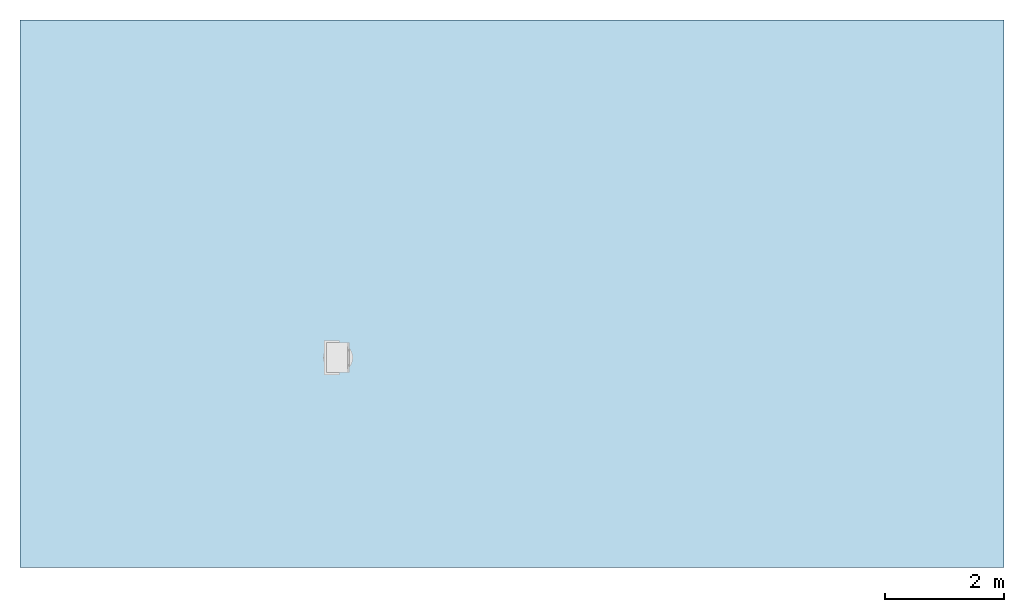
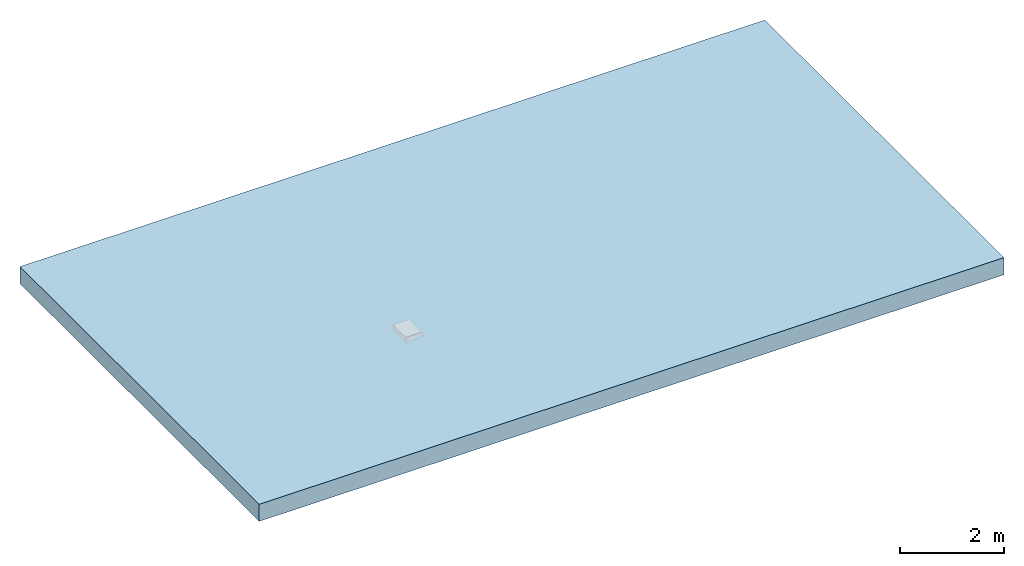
# One storey, incomplete: 1 slab, 2 openings.
"""IFC2X3 building model written with IfcOpenShell, lengths in millimetres."""

from ifc_helpers import new_model, entity, si_unit, converted_unit, direction, frame, frame_2d, origin, place, context, subcontext, project, spatial, rectangle, extrude, faceted_brep, material, layer, layer_set, layer_usage, element, save


model = new_model("IFC2X3")

# Units and contexts
model_context = context("Model", 3, precision=1e-06, world=origin(), true_north=direction((2.0, 6.12303176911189e-17, 1.0)))
context_of_model = context(None, 3, precision=1e-06, world=origin(), true_north=direction((2.0, 6.12303176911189e-17, 1.0)))
body_context = subcontext(model_context, "Body", "Model", "MODEL_VIEW")
ifc_project = project(units=[si_unit("LENGTHUNIT", "METRE", prefix="MILLI"), si_unit("AREAUNIT", "SQUARE_METRE", prefix="MILLI"), si_unit("VOLUMEUNIT", "CUBIC_METRE", prefix="MILLI"), converted_unit("PLANEANGLEUNIT", "DEGREE", entity("IfcRatioMeasure", 0.0174532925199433), si_unit("PLANEANGLEUNIT", "RADIAN"), dimensions=[0, 0, 0, 0, 0, 0, 0]), si_unit("TIMEUNIT", "SECOND")], contexts=[model_context, context_of_model])

# Site, building, storey
site_placement = place(None, origin())
site = spatial("IfcSite", under=ifc_project, at=site_placement, Name="Default", CompositionType="ELEMENT")
building_placement = place(site_placement, origin())
building = spatial("IfcBuilding", under=site, at=building_placement, CompositionType="ELEMENT")
storey_placement = place(building_placement, origin())
storey = spatial("IfcBuildingStorey", under=building, at=storey_placement, Name="Level 1", CompositionType="ELEMENT", Elevation=0.0)

# Slab, openings
ifc_material = material(Name="Plant")
ifc_layer = layer(ifc_material, 400.0)
ifc_layer_set = layer_set([ifc_layer], Name="Floor:Generic Floor - 400mm")
ifc_layer_usage = layer_usage(ifc_layer_set, "AXIS3", "POSITIVE", 0.0)
slab_placement = place(storey_placement, frame((-17967.0691536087, -3738.31688706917, -400.0)))
slab = element("IfcSlab", 1, at=slab_placement, inside=storey, material=ifc_layer_usage, Name="Floor:Generic Floor - 400mm", ObjectType="Floor:Generic Floor - 400mm", PredefinedType="FLOOR", context=body_context, shape_type="SweptSolid", body=[
    extrude(rectangle(XDim=9180.0, YDim=16500.0, at=frame_2d((0.0, 0.0), x_axis=(0.0, -1.0))), frame((8250.0, 4590.0, 400.0), z_axis=(0.0, 0.0, -1.0), x_axis=(-1.0, 0.0, 0.0)), (0.0, 0.0, 1.0), 400.0),
])
opening_1_placement = place(slab_placement, frame((10254.5933965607, 6495.72314067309, -6140.0)))
element("IfcOpeningElement", 2, at=opening_1_placement, cuts=slab, ObjectType="Opening", context=body_context, shape_type="Brep", body=[
    faceted_brep([(56.4828117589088, 541.595272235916, 374.98441010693), (56.4828117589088, 541.595272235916, 420.0), (56.4828117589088, 41.595272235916, 420.0), (56.4828117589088, 41.595272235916, 374.98441010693), (56.4828117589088, 41.595272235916, 365.0), (56.4828117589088, 447.899871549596, 40.0), (56.4828117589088, 541.595272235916, 365.0), (56.4828117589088, 541.595272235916, 25.0), (56.4828117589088, 41.595272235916, 25.0), (56.4828117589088, 135.29067292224, 40.0), (56.4828117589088, 447.899871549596, 25.0), (56.4828117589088, 135.29067292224, 25.0), (11.994691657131, 362.950452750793, 40.0), (30.1245194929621, 175.618094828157, 40.0), (2.75739639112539, 267.518072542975, 40.0), (11.9927041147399, 220.246765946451, 40.0), (30.1267359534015, 407.576682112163, 40.0), (2.75817855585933, 315.680554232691, 40.0), (472.841104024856, 407.572449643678, 40.0), (490.970931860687, 220.240091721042, 40.0), (446.482811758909, 135.290672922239, 40.0), (472.838887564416, 175.613862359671, 40.0), (500.208227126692, 315.67247192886, 40.0), (500.207444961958, 267.509990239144, 40.0), (490.97291940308, 362.943778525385, 40.0), (446.482811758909, 447.899871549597, 40.0), (91.4828117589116, 41.595272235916, 25.0), (91.4828117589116, 99.5952722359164, 25.0), (73.0883353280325, 116.565921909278, 25.0), (91.4828117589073, 483.595272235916, 25.0), (91.4828117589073, 541.595272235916, 25.0), (73.0883353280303, 466.624622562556, 25.0), (429.87728818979, 116.56592190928, 25.0), (446.482811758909, 41.595272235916, 25.0), (446.482811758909, 135.29067292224, 25.0), (411.482811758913, 99.5952722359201, 25.0), (411.48281175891, 41.595272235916, 25.0), (429.877288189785, 466.624622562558, 25.0), (446.482811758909, 447.899871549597, 25.0), (446.482811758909, 541.595272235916, 25.0), (411.482811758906, 541.595272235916, 25.0), (411.482811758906, 483.595272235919, 25.0), (446.482811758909, 41.595272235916, 420.0), (446.482811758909, 541.595272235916, 420.0), (272.482811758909, 41.595272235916, 374.98441010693), (272.482811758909, 41.595272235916, 365.0), (91.4828117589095, 41.595272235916, 0.0), (411.48281175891, 41.595272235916, 0.0), (272.482811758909, 541.595272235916, 374.98441010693), (272.482811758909, 541.595272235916, 365.0), (411.482811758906, 541.595272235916, 0.0), (91.4828117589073, 541.595272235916, 0.0), (495.403052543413, 345.891135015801, 0.0), (477.786025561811, 397.595000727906, 0.0), (25.1795979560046, 397.595000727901, 0.0), (449.360278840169, 444.238610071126, 0.0), (53.6053446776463, 444.238610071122, 0.0), (7.5625709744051, 345.891135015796, 0.0), (1.59527223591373, 291.595272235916, 0.0), (91.4828117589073, 483.595272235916, 0.0), (411.482811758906, 483.59527223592, 0.0), (501.370351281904, 291.595272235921, 0.0), (477.786025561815, 185.595543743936, 0.0), (495.403052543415, 237.299409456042, 0.0), (25.1795979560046, 185.595543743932, 0.0), (91.4828117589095, 99.5952722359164, 0.0), (411.48281175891, 99.5952722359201, 0.0), (53.6053446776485, 138.951934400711, 0.0), (449.360278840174, 138.951934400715, 0.0), (7.5625709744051, 237.299409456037, 0.0), (15.1642952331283, 566.771653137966, 365.0), (14.4828117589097, 561.595272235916, 365.0), (34.4828117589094, 581.595272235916, 365.0), (20.3406761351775, 575.737407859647, 365.0), (17.1623036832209, 571.595272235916, 365.0), (14.4828117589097, 21.5952722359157, 365.0), (15.1642952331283, 16.4188913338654, 365.0), (17.1623036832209, 11.5952722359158, 365.0), (34.4828117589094, 1.5952722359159, 365.0), (24.4828117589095, 4.27476416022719, 365.0), (20.3406761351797, 7.45313661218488, 365.0), (24.4828117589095, 578.915780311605, 365.0), (272.482811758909, 581.595272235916, 365.0), (29.3064308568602, 2.27675571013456, 365.0), (272.482811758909, 1.59527223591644, 365.0), (29.306430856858, 580.913788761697, 365.0), (272.482811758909, 581.595272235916, 374.98441010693), (34.4828117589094, 581.595272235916, 374.98441010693), (14.4828117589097, 561.595272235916, 374.98441010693), (14.4828117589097, 21.5952722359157, 374.98441010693), (272.482811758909, 1.59527223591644, 374.98441010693), (29.3064308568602, 2.27675571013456, 374.98441010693), (24.4828117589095, 4.27476416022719, 374.98441010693), (34.4828117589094, 1.5952722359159, 374.98441010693), (24.4828117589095, 578.915780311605, 374.98441010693), (29.306430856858, 580.913788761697, 374.98441010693), (17.1623036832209, 571.595272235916, 374.98441010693), (20.3406761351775, 575.737407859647, 374.98441010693), (15.1642952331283, 566.771653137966, 374.98441010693), (20.3406761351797, 7.45313661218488, 374.98441010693), (17.1623036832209, 11.5952722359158, 374.98441010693), (15.1642952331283, 16.4188913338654, 374.98441010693)], [[[0, 1, 2]], [[2, 3, 0]], [[4, 5, 6]], [[7, 6, 5]], [[8, 9, 4]], [[5, 4, 9]], [[5, 10, 7]], [[9, 8, 11]], [[12, 13, 14]], [[13, 15, 14]], [[5, 9, 13]], [[13, 12, 16]], [[12, 14, 17]], [[16, 5, 13]], [[18, 19, 20]], [[19, 21, 20]], [[22, 23, 19]], [[19, 18, 24]], [[18, 20, 25]], [[24, 22, 19]], [[8, 26, 27]], [[11, 8, 28]], [[27, 28, 8]], [[7, 29, 30]], [[7, 10, 31]], [[29, 7, 31]], [[32, 33, 34]], [[32, 35, 33]], [[36, 33, 35]], [[37, 38, 39]], [[39, 40, 41]], [[37, 39, 41]], [[42, 2, 1]], [[1, 43, 42]], [[3, 2, 44]], [[45, 44, 42]], [[2, 42, 44]], [[36, 45, 42]], [[45, 26, 4]], [[4, 26, 8]], [[36, 46, 26]], [[46, 36, 47]], [[42, 33, 36]], [[45, 36, 26]], [[43, 20, 42]], [[33, 42, 20]], [[39, 25, 43]], [[20, 43, 25]], [[20, 34, 33]], [[25, 39, 38]], [[48, 49, 43]], [[40, 43, 49]], [[1, 48, 43]], [[1, 0, 48]], [[6, 30, 49]], [[43, 40, 39]], [[30, 50, 40]], [[50, 30, 51]], [[6, 7, 30]], [[49, 30, 40]], [[52, 53, 54]], [[55, 56, 53]], [[57, 58, 52]], [[51, 59, 50]], [[60, 50, 59]], [[59, 55, 60]], [[55, 59, 56]], [[56, 54, 53]], [[54, 57, 52]], [[58, 61, 52]], [[62, 63, 64]], [[65, 47, 66]], [[67, 68, 62]], [[68, 67, 66]], [[61, 58, 69]], [[69, 64, 63]], [[67, 62, 64]], [[47, 65, 46]], [[67, 65, 66]], [[63, 61, 69]], [[35, 66, 47]], [[47, 36, 35]], [[27, 46, 65]], [[46, 27, 26]], [[13, 9, 11]], [[15, 13, 64]], [[11, 64, 13]], [[14, 15, 69]], [[28, 27, 65]], [[67, 28, 65]], [[28, 67, 11]], [[67, 64, 11]], [[64, 69, 15]], [[69, 58, 14]], [[17, 57, 12]], [[12, 54, 16]], [[16, 10, 5]], [[56, 31, 10]], [[16, 54, 10]], [[57, 54, 12]], [[17, 58, 57]], [[56, 59, 31]], [[10, 54, 56]], [[59, 29, 31]], [[14, 58, 17]], [[30, 59, 51]], [[59, 30, 29]], [[40, 50, 60]], [[60, 41, 40]], [[18, 25, 38]], [[24, 18, 53]], [[38, 53, 18]], [[22, 24, 52]], [[37, 41, 60]], [[55, 37, 60]], [[37, 55, 38]], [[55, 53, 38]], [[53, 52, 24]], [[52, 61, 22]], [[21, 19, 62]], [[19, 23, 63]], [[21, 34, 20]], [[68, 32, 34]], [[21, 62, 34]], [[63, 23, 61]], [[62, 19, 63]], [[68, 66, 32]], [[34, 62, 68]], [[66, 35, 32]], [[22, 61, 23]], [[70, 71, 72]], [[73, 74, 72]], [[72, 74, 70]], [[71, 75, 6]], [[76, 77, 78]], [[79, 78, 80]], [[80, 78, 77]], [[75, 76, 78]], [[72, 81, 73]], [[71, 6, 72]], [[49, 82, 6]], [[72, 6, 82]], [[75, 4, 6]], [[78, 79, 83]], [[84, 45, 4]], [[78, 84, 4]], [[75, 78, 4]], [[81, 72, 85]], [[0, 86, 48]], [[87, 0, 88]], [[86, 0, 87]], [[89, 0, 3]], [[3, 44, 90]], [[91, 92, 93]], [[93, 89, 3]], [[90, 93, 3]], [[87, 94, 95]], [[87, 96, 97]], [[98, 87, 88]], [[98, 96, 87]], [[88, 0, 89]], [[99, 93, 92]], [[93, 99, 100]], [[100, 101, 93]], [[93, 101, 89]], [[94, 87, 97]], [[98, 88, 70]], [[96, 98, 74]], [[70, 88, 71]], [[98, 70, 74]], [[96, 74, 73]], [[73, 97, 96]], [[94, 97, 81]], [[95, 94, 85]], [[85, 94, 81]], [[95, 85, 72]], [[95, 72, 87]], [[73, 81, 97]], [[89, 75, 71]], [[71, 88, 89]], [[91, 93, 83]], [[92, 91, 79]], [[83, 93, 78]], [[91, 83, 79]], [[92, 79, 80]], [[80, 99, 92]], [[100, 99, 77]], [[101, 100, 76]], [[76, 100, 77]], [[101, 76, 75]], [[101, 75, 89]], [[80, 77, 99]], [[90, 84, 78]], [[78, 93, 90]], [[44, 45, 84]], [[84, 90, 44]], [[86, 82, 49]], [[49, 48, 86]], [[86, 72, 82]], [[72, 86, 87]]]),
])
opening_2_placement = place(slab_placement, frame((10254.5933965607, 6495.72314067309, -6140.0)))
element("IfcOpeningElement", 3, at=opening_2_placement, cuts=slab, ObjectType="Opening", context=body_context, shape_type="Brep", body=[
    faceted_brep([(1.07216647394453, 500.0, 520.0), (1.0721664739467, 1.29978180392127, 885.0), (1.07216647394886, 1.29978180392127, 520.0), (1.07216647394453, 501.299781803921, 520.0), (1.07216647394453, 501.299781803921, 885.0), (321.072166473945, 501.299781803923, 520.0), (321.072166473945, 500.0, 520.0), (321.072166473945, 501.299781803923, 885.0), (321.072166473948, 340.0, 520.0), (321.072166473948, 500.0, 0.0), (321.072166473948, 340.0, 56.6307081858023), (321.07216647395, 160.0, 56.6307081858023), (321.072166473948, 1.2997818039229, 885.0), (321.072166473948, 160.0, 520.0), (321.07216647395, 1.2997818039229, 520.0), (321.07216647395, 0.0, 520.0), (321.07216647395, 0.0, 0.0), (0.0, 500.0, 0.0), (0.0, 0.0, 520.0), (0.0, 0.0, 0.0), (0.0, 500.0, 520.0), (455.887153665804, 160.0, 520.0), (455.887153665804, 340.0, 520.0), (455.887153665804, 340.0, 56.6307081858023), (455.887153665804, 160.0, 56.6307081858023)], [[[0, 1, 2]], [[3, 4, 0]], [[1, 0, 4]], [[5, 6, 7]], [[8, 7, 6]], [[9, 10, 6]], [[8, 6, 10]], [[11, 10, 9]], [[8, 12, 7]], [[13, 14, 12]], [[11, 15, 14]], [[13, 11, 14]], [[16, 15, 11]], [[9, 16, 11]], [[8, 13, 12]], [[12, 1, 4]], [[4, 7, 12]], [[5, 4, 3]], [[4, 5, 7]], [[5, 3, 0]], [[0, 6, 5]], [[14, 2, 1]], [[1, 12, 14]], [[17, 18, 19]], [[18, 17, 20]], [[2, 20, 0]], [[18, 20, 2]], [[14, 15, 2]], [[18, 2, 15]], [[0, 20, 17]], [[9, 6, 0]], [[17, 9, 0]], [[9, 17, 19]], [[19, 16, 9]], [[16, 19, 18]], [[18, 15, 16]], [[21, 22, 23]], [[23, 24, 21]], [[21, 13, 8]], [[8, 22, 21]], [[22, 8, 10]], [[10, 23, 22]], [[24, 10, 11]], [[10, 24, 23]], [[21, 11, 13]], [[11, 21, 24]]]),
])

save(model, "model.ifc")
